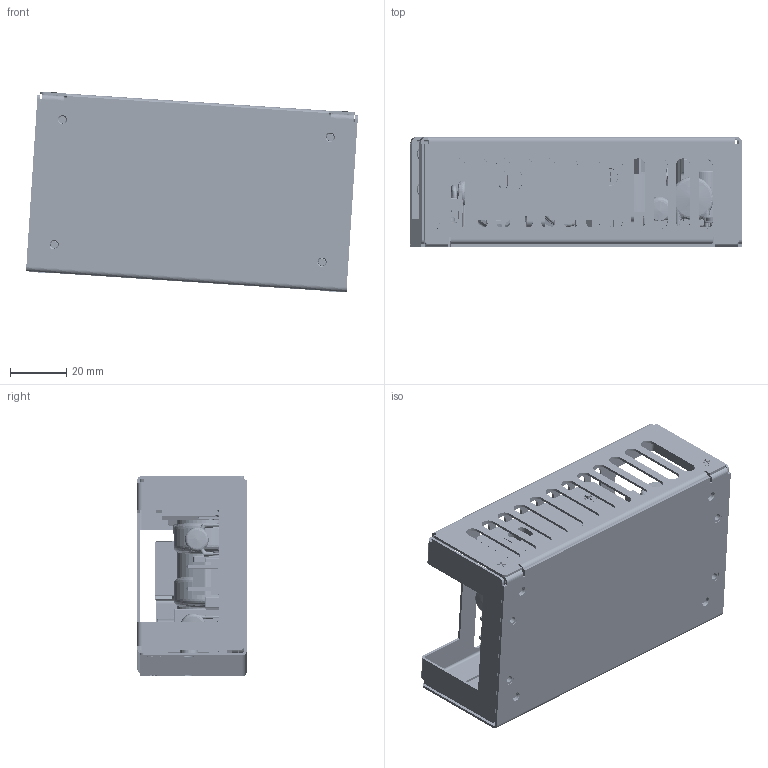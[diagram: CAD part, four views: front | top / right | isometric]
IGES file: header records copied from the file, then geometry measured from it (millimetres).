
Start section: SolidWorks IGES file using analytic representation for surfaces
Global section: file name: C:\Documents and Settings\behzar\Desktop\BEHZAR\PROJECTS\CURRENT-2010\SW-MODELS\WORKING\HELP\ECS100-12-48V-SINGLE-OUTPUT-W-COVER.IGS; native system: SolidWorks 2010; preprocessor: SolidWorks 2010; author: BEHZAR; date: 100623.101151; units: inch
Bounding box: 117.86 x 39 x 71.15 mm (x, y, z)
Surface area: 102135.4 mm2 (no closed solid volume)
Topology: 0 solids, 0 shells, 2453 faces, 28895 edges, 28839 vertices
Faces by surface type: bspline 1429, revolution 1024
